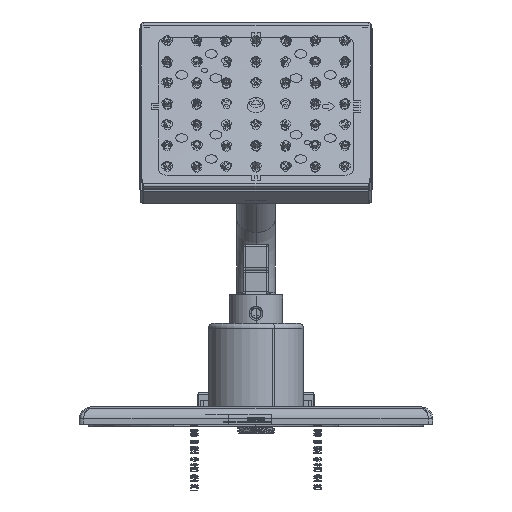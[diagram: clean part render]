
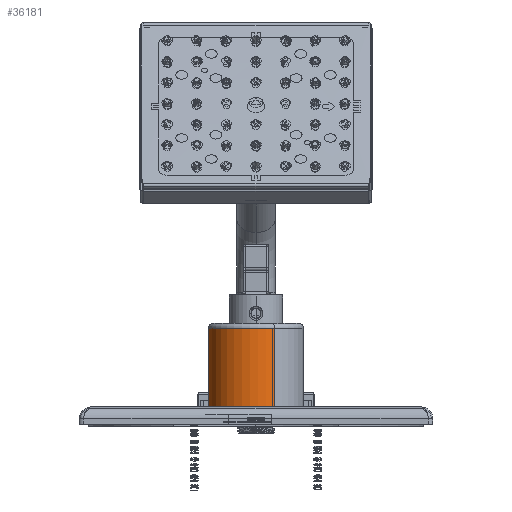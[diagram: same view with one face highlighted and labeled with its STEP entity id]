
A CAD part, front view. The second image highlights one B-rep face of the part: STEP entity #36181.
In plain terms, the highlighted cylindrical face has radius 25.749 mm (diameter 51.498 mm), a partial arc.
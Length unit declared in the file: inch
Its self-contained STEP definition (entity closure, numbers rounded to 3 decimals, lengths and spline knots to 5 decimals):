
#529 = ORIENTED_EDGE ( 'NONE', *, *, #51208, .T. ) ;
#2701 = CARTESIAN_POINT ( 'NONE',  ( 0., 0., 0.19612 ) ) ;
#5566 = EDGE_LOOP ( 'NONE', ( #32339, #57133, #529, #61009 ) ) ;
#8258 = VERTEX_POINT ( 'NONE', #29386 ) ;
#8857 = EDGE_CURVE ( 'NONE', #8258, #49701, #48281, .T. ) ;
#12554 = AXIS2_PLACEMENT_3D ( 'NONE', #2701, #44317, #18370 ) ;
#14460 = CARTESIAN_POINT ( 'NONE',  ( -0.38832, 0.93643, 0.19612 ) ) ;
#18370 = DIRECTION ( 'NONE',  ( -0.383, 0.924, 0. ) ) ;
#18596 = VERTEX_POINT ( 'NONE', #56964 ) ;
#22258 = VERTEX_POINT ( 'NONE', #65434 ) ;
#23596 = DIRECTION ( 'NONE',  ( -0.383, 0.924, 0. ) ) ;
#23969 = LINE ( 'NONE', #14460, #53955 ) ;
#25722 = CARTESIAN_POINT ( 'NONE',  ( 0., 0., 0.19612 ) ) ;
#25777 = CARTESIAN_POINT ( 'NONE',  ( 0.38832, -0.93643, 0.19612 ) ) ;
#27523 = AXIS2_PLACEMENT_3D ( 'NONE', #25722, #62307, #36310 ) ;
#27854 = AXIS2_PLACEMENT_3D ( 'NONE', #49269, #60507, #23596 ) ;
#28573 = FACE_OUTER_BOUND ( 'NONE', #5566, .T. ) ;
#28847 = VECTOR ( 'NONE', #52032, 39.37008 ) ;
#29386 = CARTESIAN_POINT ( 'NONE',  ( -0.38832, 0.93643, 0.19612 ) ) ;
#32250 = CIRCLE ( 'NONE', #27854, 1.01375 ) ;
#32339 = ORIENTED_EDGE ( 'NONE', *, *, #8857, .T. ) ;
#35271 = LINE ( 'NONE', #45882, #28847 ) ;
#36181 = ADVANCED_FACE ( 'NONE', ( #28573 ), #49462, .T. ) ;
#36310 = DIRECTION ( 'NONE',  ( -0.383, 0.924, 0. ) ) ;
#36456 = EDGE_CURVE ( 'NONE', #8258, #18596, #23969, .T. ) ;
#44317 = DIRECTION ( 'NONE',  ( 0., 0., 1. ) ) ;
#45882 = CARTESIAN_POINT ( 'NONE',  ( 0.38832, -0.93643, 0.19612 ) ) ;
#48281 = CIRCLE ( 'NONE', #27523, 1.01375 ) ;
#49269 = CARTESIAN_POINT ( 'NONE',  ( 0., 0., 2.04312 ) ) ;
#49462 = CYLINDRICAL_SURFACE ( 'NONE', #12554, 1.01375 ) ;
#49701 = VERTEX_POINT ( 'NONE', #25777 ) ;
#50003 = EDGE_CURVE ( 'NONE', #49701, #22258, #35271, .T. ) ;
#51208 = EDGE_CURVE ( 'NONE', #22258, #18596, #32250, .T. ) ;
#52032 = DIRECTION ( 'NONE',  ( 0., 0., 1. ) ) ;
#53955 = VECTOR ( 'NONE', #56444, 39.37008 ) ;
#56444 = DIRECTION ( 'NONE',  ( 0., 0., 1. ) ) ;
#56964 = CARTESIAN_POINT ( 'NONE',  ( -0.38832, 0.93643, 2.04312 ) ) ;
#57133 = ORIENTED_EDGE ( 'NONE', *, *, #50003, .T. ) ;
#60507 = DIRECTION ( 'NONE',  ( 0., 0., -1. ) ) ;
#61009 = ORIENTED_EDGE ( 'NONE', *, *, #36456, .F. ) ;
#62307 = DIRECTION ( 'NONE',  ( 0., 0., 1. ) ) ;
#65434 = CARTESIAN_POINT ( 'NONE',  ( 0.38832, -0.93643, 2.04312 ) ) ;
